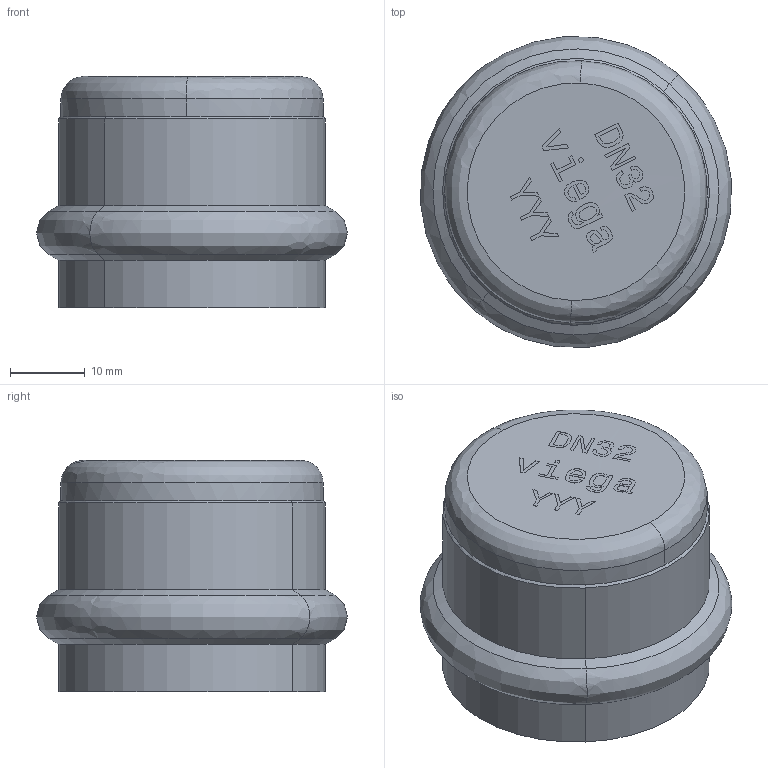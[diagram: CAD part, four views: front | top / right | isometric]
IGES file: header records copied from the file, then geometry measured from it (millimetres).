
Start section: 3D InterOp IGES (Version 26 1 0), Spatial Corp. Copyright (c) 1999-2007.
Global section: file name: pim0004610.igs; native system: Spatial Corp.; preprocessor: 3D InterOp ACIS/IGES; author: cad-pim; organization: TransMagic, Inc.; date: 20170510.084144; units: millimetre
Bounding box: 41.72 x 41.72 x 31 mm (x, y, z)
Volume: 12966.1 mm3; surface area: 8248.7 mm2
Topology: 1 solids, 1 shells, 260 faces, 804 edges, 564 vertices
Faces by surface type: bspline 260
